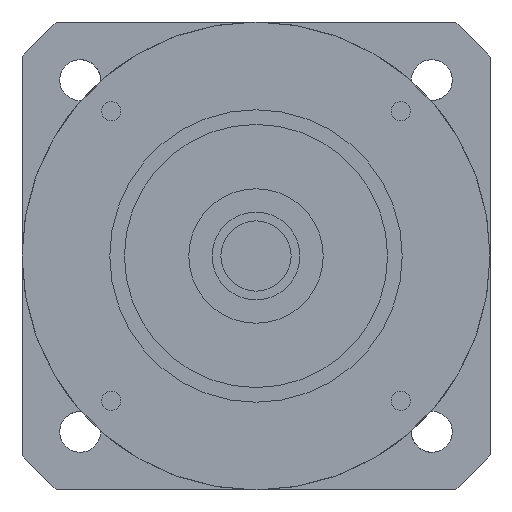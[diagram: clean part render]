
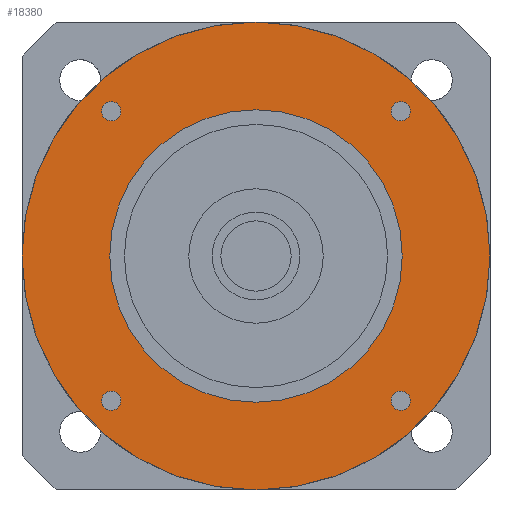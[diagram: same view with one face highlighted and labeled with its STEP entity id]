
A CAD part, left-side view. The second image highlights one B-rep face of the part: STEP entity #18380.
In plain terms, the highlighted planar face has unit normal (-1, 0, 0) as drawn and (0, 0, -1) by its records, which use the part's own axes.
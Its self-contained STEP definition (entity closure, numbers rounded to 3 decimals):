
#13830=CARTESIAN_POINT('',(23.099,24.749,-42.));
#13840=VERTEX_POINT('',#13830);
#14020=CARTESIAN_POINT('',(26.399,24.749,-42.));
#14030=VERTEX_POINT('',#14020);
#14060=CARTESIAN_POINT('',(24.749,24.749,-42.));
#14070=DIRECTION('',(0.,0.,-1.));
#14080=DIRECTION('',(1.,0.,0.));
#14090=AXIS2_PLACEMENT_3D('',#14060,#14070,#14080);
#14100=CIRCLE('',#14090,1.65);
#14110=EDGE_CURVE('',#13840,#14030,#14100,.T.);
#17400=CARTESIAN_POINT('',(-40.,0.,-42.));
#17410=VERTEX_POINT('',#17400);
#17440=CARTESIAN_POINT('',(0.,0.,-42.));
#17450=DIRECTION('',(0.,0.,-1.));
#17460=DIRECTION('',(1.,0.,0.));
#17470=AXIS2_PLACEMENT_3D('',#17440,#17450,#17460);
#17480=CIRCLE('',#17470,40.);
#17490=CARTESIAN_POINT('',(40.,0.,-42.));
#17500=VERTEX_POINT('',#17490);
#17510=EDGE_CURVE('',#17410,#17500,#17480,.T.);
#17630=CARTESIAN_POINT('',(0.,0.,-42.));
#17640=DIRECTION('',(0.,0.,1.));
#17650=DIRECTION('',(1.,0.,0.));
#17660=AXIS2_PLACEMENT_3D('',#17630,#17640,#17650);
#17670=PLANE('',#17660);
#17680=CARTESIAN_POINT('',(24.749,-24.749,-42.));
#17690=DIRECTION('',(0.,0.,-1.));
#17700=DIRECTION('',(1.,0.,0.));
#17710=AXIS2_PLACEMENT_3D('',#17680,#17690,#17700);
#17720=CIRCLE('',#17710,1.65);
#17730=CARTESIAN_POINT('',(26.399,-24.749,-42.));
#17740=VERTEX_POINT('',#17730);
#17750=CARTESIAN_POINT('',(23.099,-24.749,-42.));
#17760=VERTEX_POINT('',#17750);
#17770=EDGE_CURVE('',#17740,#17760,#17720,.T.);
#17780=ORIENTED_EDGE('',*,*,#17770,.F.);
#17790=EDGE_CURVE('',#17760,#17740,#17720,.T.);
#17800=ORIENTED_EDGE('',*,*,#17790,.F.);
#17810=EDGE_LOOP('',(#17800,#17780));
#17820=FACE_BOUND('',#17810,.T.);
#17830=CARTESIAN_POINT('',(0.,0.,-42.));
#17840=DIRECTION('',(0.,0.,1.));
#17850=DIRECTION('',(-1.,0.,0.));
#17860=AXIS2_PLACEMENT_3D('',#17830,#17840,#17850);
#17870=CIRCLE('',#17860,25.);
#17880=CARTESIAN_POINT('',(-25.,0.,-42.));
#17890=VERTEX_POINT('',#17880);
#17900=CARTESIAN_POINT('',(25.,0.,-42.));
#17910=VERTEX_POINT('',#17900);
#17920=EDGE_CURVE('',#17890,#17910,#17870,.T.);
#17930=ORIENTED_EDGE('',*,*,#17920,.T.);
#17940=EDGE_CURVE('',#17910,#17890,#17870,.T.);
#17950=ORIENTED_EDGE('',*,*,#17940,.T.);
#17960=EDGE_LOOP('',(#17950,#17930));
#17970=FACE_BOUND('',#17960,.T.);
#17980=CARTESIAN_POINT('',(-24.749,-24.749,-42.));
#17990=DIRECTION('',(0.,0.,-1.));
#18000=DIRECTION('',(1.,0.,0.));
#18010=AXIS2_PLACEMENT_3D('',#17980,#17990,#18000);
#18020=CIRCLE('',#18010,1.65);
#18030=CARTESIAN_POINT('',(-23.099,-24.749,-42.));
#18040=VERTEX_POINT('',#18030);
#18050=CARTESIAN_POINT('',(-26.399,-24.749,-42.));
#18060=VERTEX_POINT('',#18050);
#18070=EDGE_CURVE('',#18040,#18060,#18020,.T.);
#18080=ORIENTED_EDGE('',*,*,#18070,.F.);
#18090=EDGE_CURVE('',#18060,#18040,#18020,.T.);
#18100=ORIENTED_EDGE('',*,*,#18090,.F.);
#18110=EDGE_LOOP('',(#18100,#18080));
#18120=FACE_BOUND('',#18110,.T.);
#18130=CARTESIAN_POINT('',(-24.749,24.749,-42.));
#18140=DIRECTION('',(0.,0.,-1.));
#18150=DIRECTION('',(1.,0.,0.));
#18160=AXIS2_PLACEMENT_3D('',#18130,#18140,#18150);
#18170=CIRCLE('',#18160,1.65);
#18180=CARTESIAN_POINT('',(-23.099,24.749,-42.));
#18190=VERTEX_POINT('',#18180);
#18200=CARTESIAN_POINT('',(-26.399,24.749,-42.));
#18210=VERTEX_POINT('',#18200);
#18220=EDGE_CURVE('',#18190,#18210,#18170,.T.);
#18230=ORIENTED_EDGE('',*,*,#18220,.F.);
#18240=EDGE_CURVE('',#18210,#18190,#18170,.T.);
#18250=ORIENTED_EDGE('',*,*,#18240,.F.);
#18260=EDGE_LOOP('',(#18250,#18230));
#18270=FACE_BOUND('',#18260,.T.);
#18280=EDGE_CURVE('',#14030,#13840,#14100,.T.);
#18290=ORIENTED_EDGE('',*,*,#18280,.F.);
#18300=ORIENTED_EDGE('',*,*,#14110,.F.);
#18310=EDGE_LOOP('',(#18300,#18290));
#18320=FACE_BOUND('',#18310,.T.);
#18330=EDGE_CURVE('',#17500,#17410,#17480,.T.);
#18340=ORIENTED_EDGE('',*,*,#18330,.T.);
#18350=ORIENTED_EDGE('',*,*,#17510,.T.);
#18360=EDGE_LOOP('',(#18350,#18340));
#18370=FACE_OUTER_BOUND('',#18360,.T.);
#18380=ADVANCED_FACE('',(#17820,#17970,#18120,#18270,#18320,#18370),
#17670,.F.);
